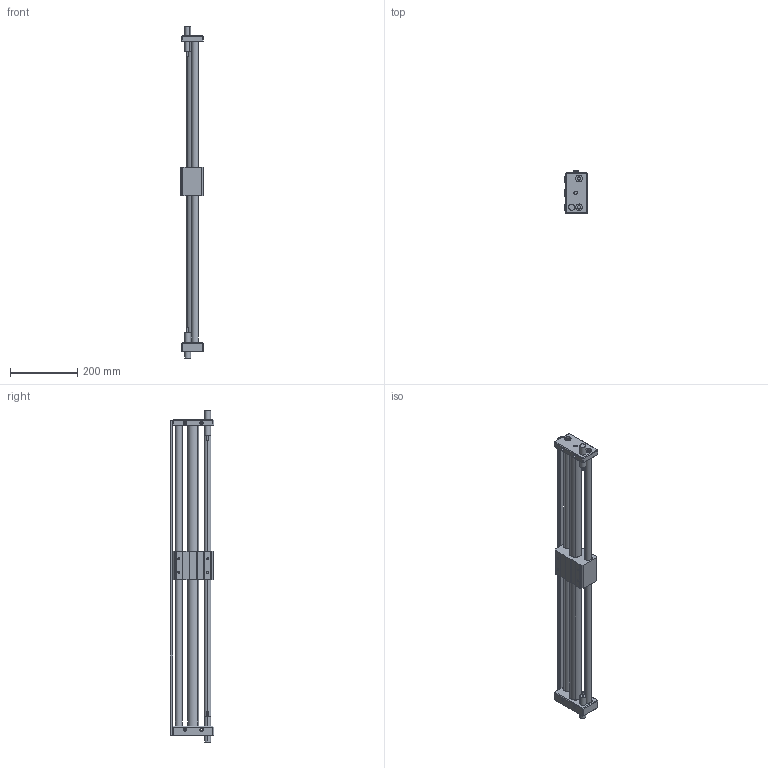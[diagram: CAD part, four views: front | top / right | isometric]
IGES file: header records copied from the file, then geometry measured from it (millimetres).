
Start section: SolidWorks IGES file using analytic representation for surfaces
Global section: file name: D:\Documents de SGA\Pieces 2D et 3D\GRU\iges\GRU 32.800.IGS; native system: SolidWorks 2010; preprocessor: SolidWorks 2010; author: SGA; date: 111216.135234; units: millimetre
Bounding box: 66 x 129.17 x 990.08 mm (x, y, z)
Surface area: 405241.6 mm2 (no closed solid volume)
Topology: 0 solids, 0 shells, 246 faces, 3800 edges, 3800 vertices
Faces by surface type: bspline 126, revolution 120
